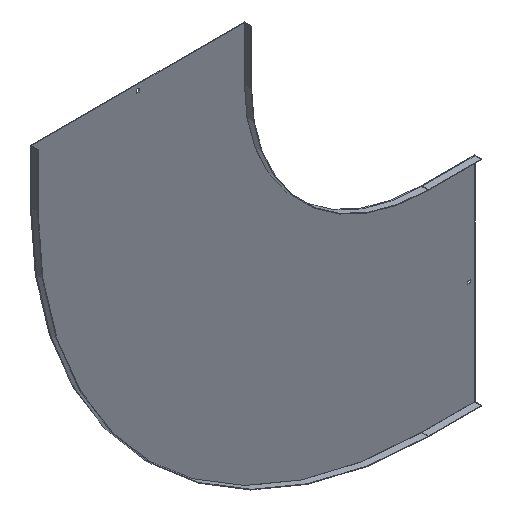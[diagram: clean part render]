
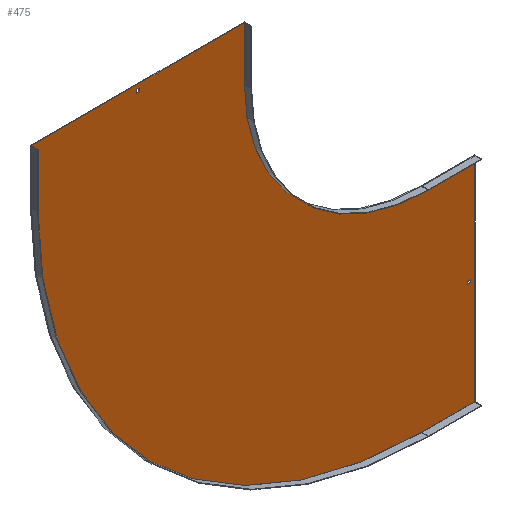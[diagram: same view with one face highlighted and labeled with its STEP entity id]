
A CAD part, isometric view. The second image highlights one B-rep face of the part: STEP entity #475.
In plain terms, the highlighted planar face has unit normal (0, -1, 0).
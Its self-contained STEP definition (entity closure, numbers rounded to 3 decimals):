
#3 = FACE_BOUND ( 'NONE', #748, .T. ) ;
#13 = CARTESIAN_POINT ( 'NONE',  ( -803.25, -1.5, 0. ) ) ;
#33 = VERTEX_POINT ( 'NONE', #112 ) ;
#40 = VERTEX_POINT ( 'NONE', #508 ) ;
#41 = CARTESIAN_POINT ( 'NONE',  ( 150., -1.5, -498.5 ) ) ;
#42 = VECTOR ( 'NONE', #55, 1000. ) ;
#46 = AXIS2_PLACEMENT_3D ( 'NONE', #735, #390, #339 ) ;
#55 = DIRECTION ( 'NONE',  ( -1., 0., 0. ) ) ;
#79 = CIRCLE ( 'NONE', #46, 500. ) ;
#104 = EDGE_CURVE ( 'NONE', #184, #614, #682, .T. ) ;
#107 = EDGE_CURVE ( 'NONE', #283, #416, #509, .T. ) ;
#112 = CARTESIAN_POINT ( 'NONE',  ( 0., -1.5, -500. ) ) ;
#113 = CARTESIAN_POINT ( 'NONE',  ( -803.25, -1.5, 138. ) ) ;
#118 = CARTESIAN_POINT ( 'NONE',  ( -1100., -1.5, 150. ) ) ;
#128 = EDGE_CURVE ( 'NONE', #773, #635, #774, .T. ) ;
#131 = DIRECTION ( 'NONE',  ( 0., 0., 1. ) ) ;
#132 = LINE ( 'NONE', #13, #637 ) ;
#137 = LINE ( 'NONE', #756, #790 ) ;
#139 = DIRECTION ( 'NONE',  ( 1., 0., 0. ) ) ;
#142 = FACE_BOUND ( 'NONE', #290, .T. ) ;
#152 = CARTESIAN_POINT ( 'NONE',  ( 129., -1.5, -803.25 ) ) ;
#170 = VERTEX_POINT ( 'NONE', #206 ) ;
#172 = EDGE_CURVE ( 'NONE', #302, #209, #476, .T. ) ;
#178 = VECTOR ( 'NONE', #666, 1000. ) ;
#182 = VECTOR ( 'NONE', #832, 1000. ) ;
#184 = VERTEX_POINT ( 'NONE', #341 ) ;
#194 = CARTESIAN_POINT ( 'NONE',  ( 0., -1.5, -500. ) ) ;
#202 = DIRECTION ( 'NONE',  ( 0., -1., 0. ) ) ;
#206 = CARTESIAN_POINT ( 'NONE',  ( 150., -1.5, -500. ) ) ;
#207 = VECTOR ( 'NONE', #139, 1000. ) ;
#208 = ORIENTED_EDGE ( 'NONE', *, *, #375, .F. ) ;
#209 = VERTEX_POINT ( 'NONE', #762 ) ;
#228 = DIRECTION ( 'NONE',  ( -1., 0., 0. ) ) ;
#234 = CARTESIAN_POINT ( 'NONE',  ( 0., -1.5, -1100. ) ) ;
#261 = DIRECTION ( 'NONE',  ( 1., 0., 0. ) ) ;
#277 = CARTESIAN_POINT ( 'NONE',  ( -1101.5, -1.5, 150. ) ) ;
#283 = VERTEX_POINT ( 'NONE', #663 ) ;
#286 = CARTESIAN_POINT ( 'NONE',  ( 0., -1.5, 0. ) ) ;
#290 = EDGE_LOOP ( 'NONE', ( #672, #517, #558, #376 ) ) ;
#301 = DIRECTION ( 'NONE',  ( 0., 0., 1. ) ) ;
#302 = VERTEX_POINT ( 'NONE', #331 ) ;
#304 = VECTOR ( 'NONE', #131, 1000. ) ;
#315 = LINE ( 'NONE', #398, #332 ) ;
#318 = EDGE_CURVE ( 'NONE', #839, #746, #315, .T. ) ;
#320 = VECTOR ( 'NONE', #802, 1000. ) ;
#327 = EDGE_CURVE ( 'NONE', #33, #170, #580, .T. ) ;
#328 = DIRECTION ( 'NONE',  ( 1., 0., 0. ) ) ;
#329 = DIRECTION ( 'NONE',  ( 0., 1., 0. ) ) ;
#331 = CARTESIAN_POINT ( 'NONE',  ( -796.75, -1.5, 129. ) ) ;
#332 = VECTOR ( 'NONE', #328, 1000. ) ;
#339 = DIRECTION ( 'NONE',  ( 0., 0., -1. ) ) ;
#341 = CARTESIAN_POINT ( 'NONE',  ( -500., -1.5, 150. ) ) ;
#350 = VECTOR ( 'NONE', #566, 1000. ) ;
#357 = CARTESIAN_POINT ( 'NONE',  ( -500., -1.5, 150. ) ) ;
#365 = CARTESIAN_POINT ( 'NONE',  ( -500., -1.5, 0. ) ) ;
#368 = ORIENTED_EDGE ( 'NONE', *, *, #107, .F. ) ;
#375 = EDGE_CURVE ( 'NONE', #416, #184, #482, .T. ) ;
#376 = ORIENTED_EDGE ( 'NONE', *, *, #592, .F. ) ;
#390 = DIRECTION ( 'NONE',  ( 0., -1., 0. ) ) ;
#398 = CARTESIAN_POINT ( 'NONE',  ( 0., -1.5, 138. ) ) ;
#399 = EDGE_CURVE ( 'NONE', #563, #540, #805, .T. ) ;
#401 = CARTESIAN_POINT ( 'NONE',  ( 0., -1.5, 129. ) ) ;
#415 = ORIENTED_EDGE ( 'NONE', *, *, #732, .T. ) ;
#416 = VERTEX_POINT ( 'NONE', #118 ) ;
#422 = DIRECTION ( 'NONE',  ( 0., 0., -1. ) ) ;
#438 = EDGE_CURVE ( 'NONE', #635, #283, #829, .T. ) ;
#456 = VERTEX_POINT ( 'NONE', #152 ) ;
#463 = ORIENTED_EDGE ( 'NONE', *, *, #478, .T. ) ;
#469 = CARTESIAN_POINT ( 'NONE',  ( 0., -1.5, -803.25 ) ) ;
#472 = DIRECTION ( 'NONE',  ( 0., 0., -1. ) ) ;
#475 = ADVANCED_FACE ( 'NONE', ( #142, #536, #3 ), #797, .T. ) ;
#476 = LINE ( 'NONE', #401, #178 ) ;
#477 = ORIENTED_EDGE ( 'NONE', *, *, #769, .F. ) ;
#478 = EDGE_CURVE ( 'NONE', #746, #302, #137, .T. ) ;
#481 = CARTESIAN_POINT ( 'NONE',  ( 138., -1.5, -796.75 ) ) ;
#482 = LINE ( 'NONE', #277, #207 ) ;
#483 = ORIENTED_EDGE ( 'NONE', *, *, #327, .F. ) ;
#491 = CARTESIAN_POINT ( 'NONE',  ( 138., -1.5, -803.25 ) ) ;
#499 = VECTOR ( 'NONE', #261, 1000. ) ;
#508 = CARTESIAN_POINT ( 'NONE',  ( 129., -1.5, -796.75 ) ) ;
#509 = LINE ( 'NONE', #765, #778 ) ;
#515 = DIRECTION ( 'NONE',  ( 0., 0., -1. ) ) ;
#517 = ORIENTED_EDGE ( 'NONE', *, *, #399, .F. ) ;
#536 = FACE_OUTER_BOUND ( 'NONE', #720, .T. ) ;
#540 = VERTEX_POINT ( 'NONE', #481 ) ;
#551 = VECTOR ( 'NONE', #716, 1000. ) ;
#558 = ORIENTED_EDGE ( 'NONE', *, *, #727, .F. ) ;
#561 = EDGE_CURVE ( 'NONE', #170, #773, #737, .T. ) ;
#563 = VERTEX_POINT ( 'NONE', #491 ) ;
#566 = DIRECTION ( 'NONE',  ( 0., 0., -1. ) ) ;
#572 = LINE ( 'NONE', #694, #182 ) ;
#580 = LINE ( 'NONE', #194, #551 ) ;
#592 = EDGE_CURVE ( 'NONE', #40, #456, #572, .T. ) ;
#614 = VERTEX_POINT ( 'NONE', #365 ) ;
#629 = ORIENTED_EDGE ( 'NONE', *, *, #318, .T. ) ;
#635 = VERTEX_POINT ( 'NONE', #234 ) ;
#637 = VECTOR ( 'NONE', #733, 1000. ) ;
#639 = ORIENTED_EDGE ( 'NONE', *, *, #104, .F. ) ;
#645 = ORIENTED_EDGE ( 'NONE', *, *, #172, .T. ) ;
#653 = AXIS2_PLACEMENT_3D ( 'NONE', #286, #202, #472 ) ;
#657 = CARTESIAN_POINT ( 'NONE',  ( -796.75, -1.5, 138. ) ) ;
#661 = AXIS2_PLACEMENT_3D ( 'NONE', #858, #329, #515 ) ;
#663 = CARTESIAN_POINT ( 'NONE',  ( -1100., -1.5, 0. ) ) ;
#666 = DIRECTION ( 'NONE',  ( -1., 0., 0. ) ) ;
#672 = ORIENTED_EDGE ( 'NONE', *, *, #674, .F. ) ;
#674 = EDGE_CURVE ( 'NONE', #540, #40, #822, .T. ) ;
#682 = LINE ( 'NONE', #357, #320 ) ;
#688 = CARTESIAN_POINT ( 'NONE',  ( 0., -1.5, -796.75 ) ) ;
#694 = CARTESIAN_POINT ( 'NONE',  ( 129., -1.5, 0. ) ) ;
#716 = DIRECTION ( 'NONE',  ( 1., 0., 0. ) ) ;
#720 = EDGE_LOOP ( 'NONE', ( #208, #368, #745, #852, #814, #483, #477, #639 ) ) ;
#727 = EDGE_CURVE ( 'NONE', #456, #563, #808, .T. ) ;
#732 = EDGE_CURVE ( 'NONE', #209, #839, #132, .T. ) ;
#733 = DIRECTION ( 'NONE',  ( 0., 0., 1. ) ) ;
#735 = CARTESIAN_POINT ( 'NONE',  ( 0., -1.5, 0. ) ) ;
#737 = LINE ( 'NONE', #41, #350 ) ;
#745 = ORIENTED_EDGE ( 'NONE', *, *, #438, .F. ) ;
#746 = VERTEX_POINT ( 'NONE', #657 ) ;
#748 = EDGE_LOOP ( 'NONE', ( #629, #463, #645, #415 ) ) ;
#756 = CARTESIAN_POINT ( 'NONE',  ( -796.75, -1.5, 0. ) ) ;
#762 = CARTESIAN_POINT ( 'NONE',  ( -803.25, -1.5, 129. ) ) ;
#765 = CARTESIAN_POINT ( 'NONE',  ( -1100., -1.5, 0. ) ) ;
#769 = EDGE_CURVE ( 'NONE', #614, #33, #79, .T. ) ;
#773 = VERTEX_POINT ( 'NONE', #791 ) ;
#774 = LINE ( 'NONE', #847, #42 ) ;
#778 = VECTOR ( 'NONE', #301, 1000. ) ;
#785 = CARTESIAN_POINT ( 'NONE',  ( 138., -1.5, 0. ) ) ;
#790 = VECTOR ( 'NONE', #422, 1000. ) ;
#791 = CARTESIAN_POINT ( 'NONE',  ( 150., -1.5, -1100. ) ) ;
#797 = PLANE ( 'NONE',  #653 ) ;
#802 = DIRECTION ( 'NONE',  ( 0., 0., -1. ) ) ;
#805 = LINE ( 'NONE', #785, #304 ) ;
#808 = LINE ( 'NONE', #469, #499 ) ;
#814 = ORIENTED_EDGE ( 'NONE', *, *, #561, .F. ) ;
#822 = LINE ( 'NONE', #688, #862 ) ;
#829 = CIRCLE ( 'NONE', #661, 1100. ) ;
#832 = DIRECTION ( 'NONE',  ( 0., 0., -1. ) ) ;
#839 = VERTEX_POINT ( 'NONE', #113 ) ;
#847 = CARTESIAN_POINT ( 'NONE',  ( 150., -1.5, -1100. ) ) ;
#852 = ORIENTED_EDGE ( 'NONE', *, *, #128, .F. ) ;
#858 = CARTESIAN_POINT ( 'NONE',  ( 0., -1.5, 0. ) ) ;
#862 = VECTOR ( 'NONE', #228, 1000. ) ;
